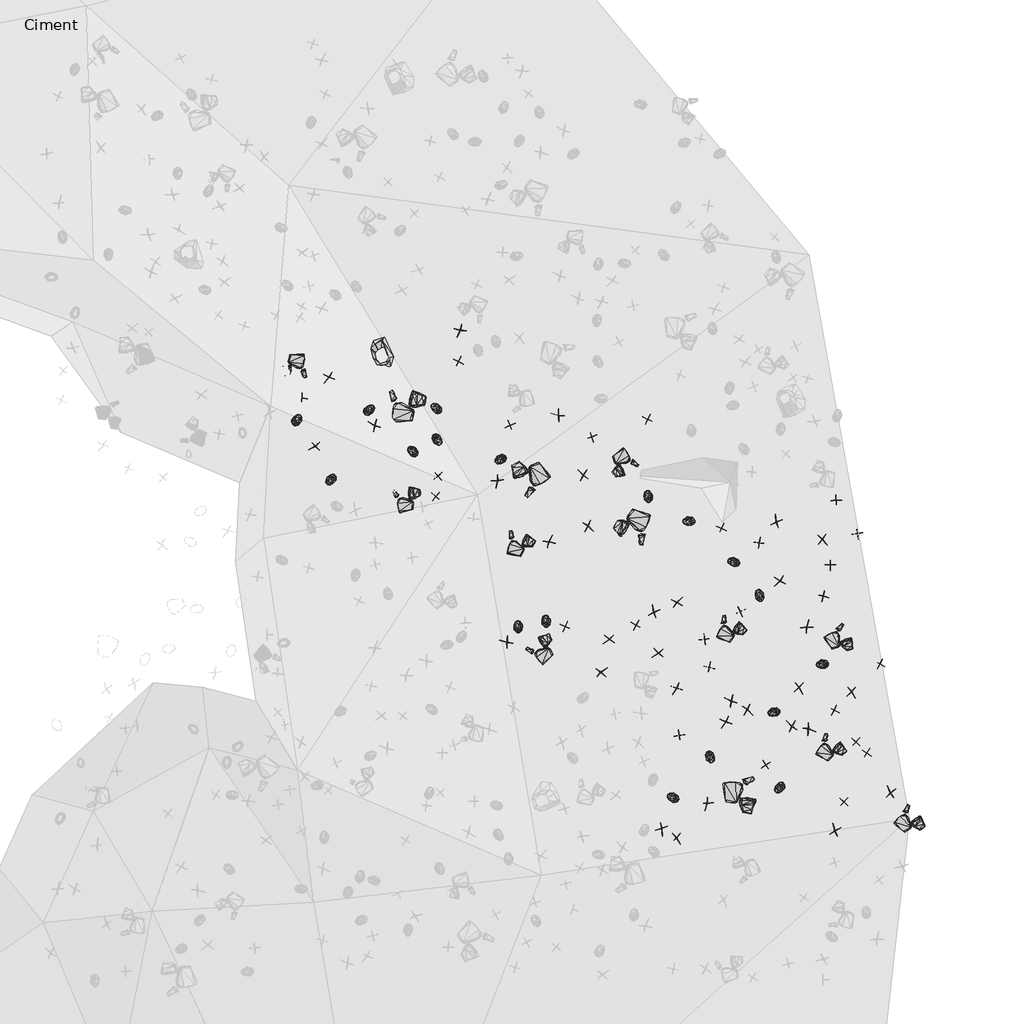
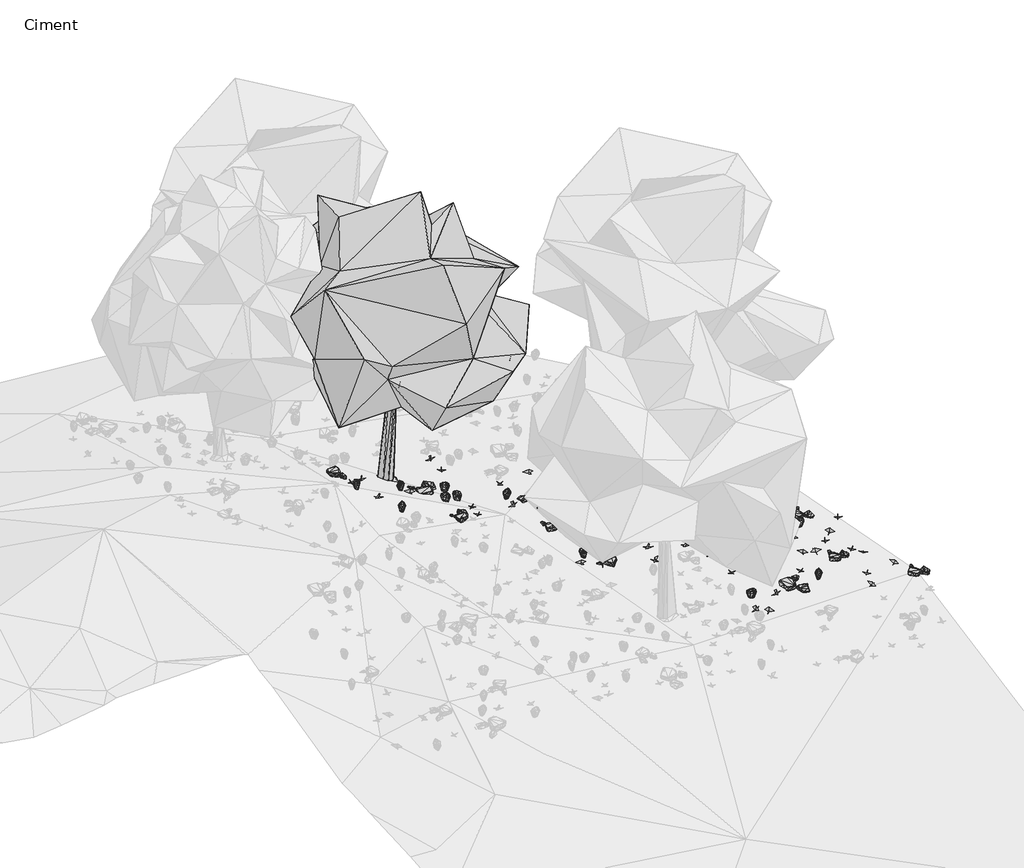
# One storey, part 27 of 30: 89 geographic elements.
"""IFC4 building model written with IfcOpenShell, lengths in millimetres."""

from ifc_helpers import new_model, si_unit, origin, place, context, project, spatial, transform, mapped, element, save
from components import enscape_assetdefinition_bush_025_fern_enscape_5718bf32, enscape_assetdefinition_bush_054_plant_09_version_2_enscape_7b546a12, enscape_assetdefinition_bush_062_plant_09_version_3_enscape_ccf8c8eb, enscape_assetdefinition_deciduous_tree_029_elm_enscape_e4c49baf, enscape_assetdefinition_stone_013_group_enscape_516da325, enscape_assetdefinition_stone_013_group_enscape_db9b3e91

model = new_model("IFC4")

# Units and contexts
model_context = context("Model", 3, world=origin())
ifc_project = project(units=[si_unit("LENGTHUNIT", "METRE", prefix="MILLI")], contexts=[model_context])

# Site, building, storey
site = spatial("IfcSite", under=ifc_project)
building = spatial("IfcBuilding", under=site)
storey = spatial("IfcBuildingStorey", under=building, Name="Ciment", Elevation=-1500.0)

# Geographic elements
placement = place(None, origin())
enscape_assetdefinition_bush_025_fern_enscape_shape = enscape_assetdefinition_bush_025_fern_enscape_5718bf32(model_context)
element("IfcGeographicElement", 1, ObjectType="Enscape AssetDefinition - Bush 025 Fern : Enscape AssetDefinition - Bush 025 Fern", at=placement, inside=storey, context=model_context, shape_type="MappedRepresentation", body=[
    mapped(enscape_assetdefinition_bush_025_fern_enscape_shape, transform((24721.7884064, 7518.7363625, -2551.7091751), x_axis=(-0.9869291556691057, -0.1611547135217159, 0.0), y_axis=(0.1611547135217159, -0.9869291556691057, 0.0), z_axis=(0.0, 0.0, 1.0))),
])
element("IfcGeographicElement", 2, ObjectType="Enscape AssetDefinition - Bush 025 Fern : Enscape AssetDefinition - Bush 025 Fern", at=placement, inside=storey, context=model_context, shape_type="MappedRepresentation", body=[
    mapped(enscape_assetdefinition_bush_025_fern_enscape_shape, transform((26297.9412079, 5881.4454079, -2706.6836357), x_axis=(-0.3454844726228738, 0.938424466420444, 0.0), y_axis=(-0.938424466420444, -0.3454844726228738, 0.0), z_axis=(0.0, 0.0, 1.0))),
])
element("IfcGeographicElement", 3, ObjectType="Enscape AssetDefinition - Bush 025 Fern : Enscape AssetDefinition - Bush 025 Fern", at=placement, inside=storey, context=model_context, shape_type="MappedRepresentation", body=[
    mapped(enscape_assetdefinition_bush_025_fern_enscape_shape, transform((26608.3316803, 3283.7791443, -2688.377142), x_axis=(-0.9449371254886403, -0.32725193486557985, 0.0), y_axis=(0.32725193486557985, -0.9449371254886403, 0.0), z_axis=(0.0, 0.0, 1.0))),
])
element("IfcGeographicElement", 4, ObjectType="Enscape AssetDefinition - Bush 025 Fern : Enscape AssetDefinition - Bush 025 Fern", at=placement, inside=storey, context=model_context, shape_type="MappedRepresentation", body=[
    mapped(enscape_assetdefinition_bush_025_fern_enscape_shape, transform((27682.0087433, 4350.3265381, -2840.7680988), x_axis=(-0.9698715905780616, -0.24361670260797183, 0.0), y_axis=(0.24361670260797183, -0.9698715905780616, 0.0), z_axis=(0.0, 0.0, 1.0))),
])
element("IfcGeographicElement", 5, ObjectType="Enscape AssetDefinition - Bush 025 Fern : Enscape AssetDefinition - Bush 025 Fern", at=placement, inside=storey, context=model_context, shape_type="MappedRepresentation", body=[
    mapped(enscape_assetdefinition_bush_025_fern_enscape_shape, transform((20949.7375488, 5182.4264526, -2049.762249), x_axis=(-0.2035758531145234, 0.9790591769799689, 0.0), y_axis=(-0.9790591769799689, -0.2035758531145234, 0.0), z_axis=(0.0, 0.0, 1.0))),
])
element("IfcGeographicElement", 6, ObjectType="Enscape AssetDefinition - Bush 025 Fern : Enscape AssetDefinition - Bush 025 Fern", at=placement, inside=storey, context=model_context, shape_type="MappedRepresentation", body=[
    mapped(enscape_assetdefinition_bush_025_fern_enscape_shape, transform((25714.2353058, 6616.4169312, -2652.050972), x_axis=(-0.9763938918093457, 0.21599761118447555, 0.0), y_axis=(-0.21599761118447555, -0.9763938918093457, 0.0), z_axis=(0.0, 0.0, 1.0))),
])
element("IfcGeographicElement", 7, ObjectType="Enscape AssetDefinition - Bush 025 Fern : Enscape AssetDefinition - Bush 025 Fern", at=placement, inside=storey, context=model_context, shape_type="MappedRepresentation", body=[
    mapped(enscape_assetdefinition_bush_025_fern_enscape_shape, transform((23831.3274384, 8071.7744827, -2456.1722279), x_axis=(-0.30267204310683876, 0.9530947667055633, 0.0), y_axis=(-0.9530947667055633, -0.30267204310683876, 0.0), z_axis=(0.0, 0.0, 1.0))),
])
element("IfcGeographicElement", 8, ObjectType="Enscape AssetDefinition - Bush 025 Fern : Enscape AssetDefinition - Bush 025 Fern", at=placement, inside=storey, context=model_context, shape_type="MappedRepresentation", body=[
    mapped(enscape_assetdefinition_bush_025_fern_enscape_shape, transform((18604.3300629, 9067.3351288, -1624.56429), x_axis=(-0.7754454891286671, 0.6314145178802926, 0.0), y_axis=(-0.6314145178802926, -0.7754454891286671, 0.0), z_axis=(0.0, 0.0, 1.0))),
])
element("IfcGeographicElement", 9, ObjectType="Enscape AssetDefinition - Bush 025 Fern : Enscape AssetDefinition - Bush 025 Fern", at=placement, inside=storey, context=model_context, shape_type="MappedRepresentation", body=[
    mapped(enscape_assetdefinition_bush_025_fern_enscape_shape, transform((26733.8523865, 1605.8006287, -2669.5923805), x_axis=(-0.539889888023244, -0.8417356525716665, 0.0), y_axis=(0.8417356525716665, -0.539889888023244, 0.0), z_axis=(0.0, 0.0, 1.0))),
])
element("IfcGeographicElement", 10, ObjectType="Enscape AssetDefinition - Bush 025 Fern : Enscape AssetDefinition - Bush 025 Fern", at=placement, inside=storey, context=model_context, shape_type="MappedRepresentation", body=[
    mapped(enscape_assetdefinition_bush_025_fern_enscape_shape, transform((16047.9125977, 9759.057045, -694.5656538), x_axis=(0.436817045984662, 0.8995503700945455, 0.0), y_axis=(-0.8995503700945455, 0.436817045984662, 0.0), z_axis=(0.0, 0.0, 1.0))),
])
element("IfcGeographicElement", 11, ObjectType="Enscape AssetDefinition - Bush 025 Fern : Enscape AssetDefinition - Bush 025 Fern", at=placement, inside=storey, context=model_context, shape_type="MappedRepresentation", body=[
    mapped(enscape_assetdefinition_bush_025_fern_enscape_shape, transform((25197.2579956, 2283.3175659, -2499.4652271), x_axis=(0.49130432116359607, -0.8709879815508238, 0.0), y_axis=(0.8709879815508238, 0.49130432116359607, 0.0), z_axis=(0.0, 0.0, 1.0))),
])
element("IfcGeographicElement", 12, ObjectType="Enscape AssetDefinition - Bush 025 Fern : Enscape AssetDefinition - Bush 025 Fern", at=placement, inside=storey, context=model_context, shape_type="MappedRepresentation", body=[
    mapped(enscape_assetdefinition_bush_025_fern_enscape_shape, transform((19147.8977203, 9315.0377274, -1932.0399761), x_axis=(0.6258652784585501, -0.7799311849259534, 0.0), y_axis=(0.7799311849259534, 0.6258652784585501, 0.0), z_axis=(0.0, 0.0, 1.0))),
])
element("IfcGeographicElement", 13, ObjectType="Enscape AssetDefinition - Bush 025 Fern : Enscape AssetDefinition - Bush 025 Fern", at=placement, inside=storey, context=model_context, shape_type="MappedRepresentation", body=[
    mapped(enscape_assetdefinition_bush_025_fern_enscape_shape, transform((20547.3136902, 8886.179924, -2092.8976536), x_axis=(-0.7966049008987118, -0.604500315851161, 0.0), y_axis=(0.604500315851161, -0.7966049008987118, 0.0), z_axis=(0.0, 0.0, 1.0))),
])
element("IfcGeographicElement", 14, ObjectType="Enscape AssetDefinition - Bush 025 Fern : Enscape AssetDefinition - Bush 025 Fern", at=placement, inside=storey, context=model_context, shape_type="MappedRepresentation", body=[
    mapped(enscape_assetdefinition_bush_025_fern_enscape_shape, transform((16787.5003815, 8430.724144, -953.0029297), x_axis=(-0.54338121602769, -0.8394860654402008, 0.0), y_axis=(0.8394860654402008, -0.54338121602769, 0.0), z_axis=(0.0, 0.0, 1.0))),
])
element("IfcGeographicElement", 15, ObjectType="Enscape AssetDefinition - Bush 025 Fern : Enscape AssetDefinition - Bush 025 Fern", at=placement, inside=storey, context=model_context, shape_type="MappedRepresentation", body=[
    mapped(enscape_assetdefinition_bush_025_fern_enscape_shape, transform((17649.8622894, 9983.1886292, -1449.5120049), x_axis=(0.629716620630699, 0.7768249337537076, 0.0), y_axis=(-0.7768249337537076, 0.629716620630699, 0.0), z_axis=(0.0, 0.0, 1.0))),
])
element("IfcGeographicElement", 16, ObjectType="Enscape AssetDefinition - Bush 025 Fern : Enscape AssetDefinition - Bush 025 Fern", at=placement, inside=storey, context=model_context, shape_type="MappedRepresentation", body=[
    mapped(enscape_assetdefinition_bush_025_fern_enscape_shape, transform((21568.0103302, 5304.9449921, -2126.1367798), x_axis=(-0.19299053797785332, 0.9812006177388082, 0.0), y_axis=(-0.9812006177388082, -0.19299053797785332, 0.0), z_axis=(0.0, 0.0, 1.0))),
])
element("IfcGeographicElement", 17, ObjectType="Enscape AssetDefinition - Bush 025 Fern : Enscape AssetDefinition - Bush 025 Fern", at=placement, inside=storey, context=model_context, shape_type="MappedRepresentation", body=[
    mapped(enscape_assetdefinition_bush_025_fern_enscape_shape, transform((24372.5280762, 1398.4870911, -2383.1262589), x_axis=(-0.9471826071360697, 0.32069472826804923, 0.0), y_axis=(-0.32069472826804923, -0.9471826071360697, 0.0), z_axis=(0.0, 0.0, 1.0))),
])
element("IfcGeographicElement", 18, ObjectType="Enscape AssetDefinition - Bush 025 Fern : Enscape AssetDefinition - Bush 025 Fern", at=placement, inside=storey, context=model_context, shape_type="MappedRepresentation", body=[
    mapped(enscape_assetdefinition_bush_025_fern_enscape_shape, transform((19128.6773682, 10021.0018158, -2024.361372), x_axis=(-0.8453133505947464, 0.5342708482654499, 0.0), y_axis=(-0.5342708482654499, -0.8453133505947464, 0.0), z_axis=(0.0, 0.0, 1.0))),
])
enscape_assetdefinition_bush_054_plant_09_version_2_enscape_shape = enscape_assetdefinition_bush_054_plant_09_version_2_enscape_7b546a12(model_context)
element("IfcGeographicElement", 19, ObjectType="Enscape AssetDefinition - Bush 054 Plant 09, Version 2 : Enscape AssetDefinition - Bush 054 Plant 09, Version 2", at=placement, inside=storey, context=model_context, shape_type="MappedRepresentation", body=[
    mapped(enscape_assetdefinition_bush_054_plant_09_version_2_enscape_shape, transform((27956.8538666, 3326.6124725, -2851.950407), x_axis=(-0.9191295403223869, 0.39395543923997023, 0.0), y_axis=(-0.39395543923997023, -0.9191295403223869, 0.0), z_axis=(0.0, 0.0, 1.0))),
])
element("IfcGeographicElement", 20, ObjectType="Enscape AssetDefinition - Bush 054 Plant 09, Version 2 : Enscape AssetDefinition - Bush 054 Plant 09, Version 2", at=placement, inside=storey, context=model_context, shape_type="MappedRepresentation", body=[
    mapped(enscape_assetdefinition_bush_054_plant_09_version_2_enscape_shape, transform((25177.2937775, 4278.2039642, -2537.1103287), x_axis=(-0.1775046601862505, -0.9841199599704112, 0.0), y_axis=(0.9841199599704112, -0.1775046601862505, 0.0), z_axis=(0.0, 0.0, 1.0))),
])
element("IfcGeographicElement", 21, ObjectType="Enscape AssetDefinition - Bush 054 Plant 09, Version 2 : Enscape AssetDefinition - Bush 054 Plant 09, Version 2", at=placement, inside=storey, context=model_context, shape_type="MappedRepresentation", body=[
    mapped(enscape_assetdefinition_bush_054_plant_09_version_2_enscape_shape, transform((28167.6750183, 1301.5441895, -2834.915638), x_axis=(-0.6339252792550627, -0.7733942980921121, 0.0), y_axis=(0.7733942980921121, -0.6339252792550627, 0.0), z_axis=(0.0, 0.0, 1.0))),
])
element("IfcGeographicElement", 22, ObjectType="Enscape AssetDefinition - Bush 054 Plant 09, Version 2 : Enscape AssetDefinition - Bush 054 Plant 09, Version 2", at=placement, inside=storey, context=model_context, shape_type="MappedRepresentation", body=[
    mapped(enscape_assetdefinition_bush_054_plant_09_version_2_enscape_shape, transform((24510.2825165, 2769.9642181, -2427.0882607), x_axis=(0.2017319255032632, -0.9794407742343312, 0.0), y_axis=(0.9794407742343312, 0.2017319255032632, 0.0), z_axis=(0.0, 0.0, 1.0))),
])
element("IfcGeographicElement", 23, ObjectType="Enscape AssetDefinition - Bush 054 Plant 09, Version 2 : Enscape AssetDefinition - Bush 054 Plant 09, Version 2", at=placement, inside=storey, context=model_context, shape_type="MappedRepresentation", body=[
    mapped(enscape_assetdefinition_bush_054_plant_09_version_2_enscape_shape, transform((16155.1189423, 10246.0985184, -858.9835167), x_axis=(-0.9998964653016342, 0.01438953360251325, 0.0), y_axis=(-0.01438953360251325, -0.9998964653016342, 0.0), z_axis=(0.0, 0.0, 1.0))),
])
element("IfcGeographicElement", 24, ObjectType="Enscape AssetDefinition - Bush 054 Plant 09, Version 2 : Enscape AssetDefinition - Bush 054 Plant 09, Version 2", at=placement, inside=storey, context=model_context, shape_type="MappedRepresentation", body=[
    mapped(enscape_assetdefinition_bush_054_plant_09_version_2_enscape_shape, transform((28434.1831207, 2631.8473816, -2894.6154118), x_axis=(-0.6378475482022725, -0.7701626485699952, 0.0), y_axis=(0.7701626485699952, -0.6378475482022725, 0.0), z_axis=(0.0, 0.0, 1.0))),
])
element("IfcGeographicElement", 25, ObjectType="Enscape AssetDefinition - Bush 054 Plant 09, Version 2 : Enscape AssetDefinition - Bush 054 Plant 09, Version 2", at=placement, inside=storey, context=model_context, shape_type="MappedRepresentation", body=[
    mapped(enscape_assetdefinition_bush_054_plant_09_version_2_enscape_shape, transform((25076.2405396, 4894.0863609, -2538.138628), x_axis=(0.9849442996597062, 0.17287199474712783, 0.0), y_axis=(-0.17287199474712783, 0.9849442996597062, 0.0), z_axis=(0.0, 0.0, 1.0))),
])
element("IfcGeographicElement", 26, ObjectType="Enscape AssetDefinition - Bush 054 Plant 09, Version 2 : Enscape AssetDefinition - Bush 054 Plant 09, Version 2", at=placement, inside=storey, context=model_context, shape_type="MappedRepresentation", body=[
    mapped(enscape_assetdefinition_bush_054_plant_09_version_2_enscape_shape, transform((20758.7490082, 9639.960289, -2156.2805176), x_axis=(0.41810404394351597, -0.9083991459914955, 0.0), y_axis=(0.9083991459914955, 0.41810404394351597, 0.0), z_axis=(0.0, 0.0, 1.0))),
])
element("IfcGeographicElement", 27, ObjectType="Enscape AssetDefinition - Bush 054 Plant 09, Version 2 : Enscape AssetDefinition - Bush 054 Plant 09, Version 2", at=placement, inside=storey, context=model_context, shape_type="MappedRepresentation", body=[
    mapped(enscape_assetdefinition_bush_054_plant_09_version_2_enscape_shape, transform((27716.5546417, 5858.1485748, -2877.2919178), x_axis=(-0.9834657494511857, 0.1810942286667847, 0.0), y_axis=(-0.1810942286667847, -0.9834657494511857, 0.0), z_axis=(0.0, 0.0, 1.0))),
])
element("IfcGeographicElement", 28, ObjectType="Enscape AssetDefinition - Bush 054 Plant 09, Version 2 : Enscape AssetDefinition - Bush 054 Plant 09, Version 2", at=placement, inside=storey, context=model_context, shape_type="MappedRepresentation", body=[
    mapped(enscape_assetdefinition_bush_054_plant_09_version_2_enscape_shape, transform((26429.4376373, 2113.9297485, -2643.383503), x_axis=(0.5920470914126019, -0.8059033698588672, 0.0), y_axis=(0.8059033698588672, 0.5920470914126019, 0.0), z_axis=(0.0, 0.0, 1.0))),
])
element("IfcGeographicElement", 29, ObjectType="Enscape AssetDefinition - Bush 054 Plant 09, Version 2 : Enscape AssetDefinition - Bush 054 Plant 09, Version 2", at=placement, inside=storey, context=model_context, shape_type="MappedRepresentation", body=[
    mapped(enscape_assetdefinition_bush_054_plant_09_version_2_enscape_shape, transform((21983.6902618, 5178.0319214, -2173.2900143), x_axis=(0.9311833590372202, -0.3645511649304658, 0.0), y_axis=(0.3645511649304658, 0.9311833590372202, 0.0), z_axis=(0.0, 0.0, 1.0))),
])
element("IfcGeographicElement", 30, ObjectType="Enscape AssetDefinition - Bush 054 Plant 09, Version 2 : Enscape AssetDefinition - Bush 054 Plant 09, Version 2", at=placement, inside=storey, context=model_context, shape_type="MappedRepresentation", body=[
    mapped(enscape_assetdefinition_bush_054_plant_09_version_2_enscape_shape, transform((19176.6719818, 8516.6101456, -1729.1173935), x_axis=(-0.6809405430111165, 0.73233870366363, 0.0), y_axis=(-0.73233870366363, -0.6809405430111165, 0.0), z_axis=(0.0, 0.0, 1.0))),
])
element("IfcGeographicElement", 31, ObjectType="Enscape AssetDefinition - Bush 054 Plant 09, Version 2 : Enscape AssetDefinition - Bush 054 Plant 09, Version 2", at=placement, inside=storey, context=model_context, shape_type="MappedRepresentation", body=[
    mapped(enscape_assetdefinition_bush_054_plant_09_version_2_enscape_shape, transform((25871.0784912, 5516.4756775, -2647.3655701), x_axis=(-0.8966216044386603, -0.44279758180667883, 0.0), y_axis=(0.44279758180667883, -0.8966216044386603, 0.0), z_axis=(0.0, 0.0, 1.0))),
])
element("IfcGeographicElement", 32, ObjectType="Enscape AssetDefinition - Bush 054 Plant 09, Version 2 : Enscape AssetDefinition - Bush 054 Plant 09, Version 2", at=placement, inside=storey, context=model_context, shape_type="MappedRepresentation", body=[
    mapped(enscape_assetdefinition_bush_054_plant_09_version_2_enscape_shape, transform((26285.3183746, 7031.460762, -2729.8395634), x_axis=(0.996489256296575, -0.08372073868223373, 0.0), y_axis=(0.08372073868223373, 0.996489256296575, 0.0), z_axis=(0.0, 0.0, 1.0))),
])
element("IfcGeographicElement", 33, ObjectType="Enscape AssetDefinition - Bush 054 Plant 09, Version 2 : Enscape AssetDefinition - Bush 054 Plant 09, Version 2", at=placement, inside=storey, context=model_context, shape_type="MappedRepresentation", body=[
    mapped(enscape_assetdefinition_bush_054_plant_09_version_2_enscape_shape, transform((28671.8845367, 2381.9160461, -2917.9224968), x_axis=(-0.5015189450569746, -0.865146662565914, 0.0), y_axis=(0.865146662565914, -0.5015189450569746, 0.0), z_axis=(0.0, 0.0, 1.0))),
])
element("IfcGeographicElement", 34, ObjectType="Enscape AssetDefinition - Bush 054 Plant 09, Version 2 : Enscape AssetDefinition - Bush 054 Plant 09, Version 2", at=placement, inside=storey, context=model_context, shape_type="MappedRepresentation", body=[
    mapped(enscape_assetdefinition_bush_054_plant_09_version_2_enscape_shape, transform((28971.654892, 4352.5791168, -2996.3693619), x_axis=(-0.8990756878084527, 0.43779322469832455, 0.0), y_axis=(-0.43779322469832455, -0.8990756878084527, 0.0), z_axis=(0.0, 0.0, 1.0))),
])
element("IfcGeographicElement", 35, ObjectType="Enscape AssetDefinition - Bush 054 Plant 09, Version 2 : Enscape AssetDefinition - Bush 054 Plant 09, Version 2", at=placement, inside=storey, context=model_context, shape_type="MappedRepresentation", body=[
    mapped(enscape_assetdefinition_bush_054_plant_09_version_2_enscape_shape, transform((25448.7781525, 7359.0679169, -2635.969162), x_axis=(-0.3427542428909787, -0.9394251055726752, 0.0), y_axis=(0.9394251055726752, -0.3427542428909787, 0.0), z_axis=(0.0, 0.0, 1.0))),
])
element("IfcGeographicElement", 36, ObjectType="Enscape AssetDefinition - Bush 054 Plant 09, Version 2 : Enscape AssetDefinition - Bush 054 Plant 09, Version 2", at=placement, inside=storey, context=model_context, shape_type="MappedRepresentation", body=[
    mapped(enscape_assetdefinition_bush_054_plant_09_version_2_enscape_shape, transform((19114.7899628, 8061.6598129, -1703.2152414), x_axis=(0.7862115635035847, -0.617957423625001, 0.0), y_axis=(0.617957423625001, 0.7862115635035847, 0.0), z_axis=(0.0, 0.0, 1.0))),
])
element("IfcGeographicElement", 37, ObjectType="Enscape AssetDefinition - Bush 054 Plant 09, Version 2 : Enscape AssetDefinition - Bush 054 Plant 09, Version 2", at=placement, inside=storey, context=model_context, shape_type="MappedRepresentation", body=[
    mapped(enscape_assetdefinition_bush_054_plant_09_version_2_enscape_shape, transform((27988.3861542, 7984.0703011, -2955.7003975), x_axis=(0.11199635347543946, -0.993708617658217, 0.0), y_axis=(0.993708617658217, 0.11199635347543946, 0.0), z_axis=(0.0, 0.0, 1.0))),
])
element("IfcGeographicElement", 38, ObjectType="Enscape AssetDefinition - Bush 054 Plant 09, Version 2 : Enscape AssetDefinition - Bush 054 Plant 09, Version 2", at=placement, inside=storey, context=model_context, shape_type="MappedRepresentation", body=[
    mapped(enscape_assetdefinition_bush_054_plant_09_version_2_enscape_shape, transform((22581.079483, 9381.2837601, -2333.4732056), x_axis=(-0.37380221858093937, 0.9275084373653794, 0.0), y_axis=(-0.9275084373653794, -0.37380221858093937, 0.0), z_axis=(0.0, 0.0, 1.0))),
])
element("IfcGeographicElement", 39, ObjectType="Enscape AssetDefinition - Bush 054 Plant 09, Version 2 : Enscape AssetDefinition - Bush 054 Plant 09, Version 2", at=placement, inside=storey, context=model_context, shape_type="MappedRepresentation", body=[
    mapped(enscape_assetdefinition_bush_054_plant_09_version_2_enscape_shape, transform((23553.4076691, 5210.4530334, -2361.6085052), x_axis=(0.9117138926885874, -0.4108257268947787, 0.0), y_axis=(0.4108257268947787, 0.9117138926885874, 0.0), z_axis=(0.0, 0.0, 1.0))),
])
element("IfcGeographicElement", 40, ObjectType="Enscape AssetDefinition - Bush 054 Plant 09, Version 2 : Enscape AssetDefinition - Bush 054 Plant 09, Version 2", at=placement, inside=storey, context=model_context, shape_type="MappedRepresentation", body=[
    mapped(enscape_assetdefinition_bush_054_plant_09_version_2_enscape_shape, transform((28469.9287415, 7238.6169434, -2997.7853298), x_axis=(-0.2032822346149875, 0.9791201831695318, 0.0), y_axis=(-0.9791201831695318, -0.2032822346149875, 0.0), z_axis=(0.0, 0.0, 1.0))),
])
element("IfcGeographicElement", 41, ObjectType="Enscape AssetDefinition - Bush 054 Plant 09, Version 2 : Enscape AssetDefinition - Bush 054 Plant 09, Version 2", at=placement, inside=storey, context=model_context, shape_type="MappedRepresentation", body=[
    mapped(enscape_assetdefinition_bush_054_plant_09_version_2_enscape_shape, transform((27870.6874847, 6544.9223518, -2910.6202126), x_axis=(-0.08128487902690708, 0.9966909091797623, 0.0), y_axis=(-0.9966909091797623, -0.08128487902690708, 0.0), z_axis=(0.0, 0.0, 1.0))),
])
element("IfcGeographicElement", 42, ObjectType="Enscape AssetDefinition - Bush 054 Plant 09, Version 2 : Enscape AssetDefinition - Bush 054 Plant 09, Version 2", at=placement, inside=storey, context=model_context, shape_type="MappedRepresentation", body=[
    mapped(enscape_assetdefinition_bush_054_plant_09_version_2_enscape_shape, transform((23814.1880035, 9771.8391418, -2490.5874729), x_axis=(0.9280751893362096, -0.3723928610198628, 0.0), y_axis=(0.3723928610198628, 0.9280751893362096, 0.0), z_axis=(0.0, 0.0, 1.0))),
])
element("IfcGeographicElement", 43, ObjectType="Enscape AssetDefinition - Bush 054 Plant 09, Version 2 : Enscape AssetDefinition - Bush 054 Plant 09, Version 2", at=placement, inside=storey, context=model_context, shape_type="MappedRepresentation", body=[
    mapped(enscape_assetdefinition_bush_054_plant_09_version_2_enscape_shape, transform((19617.8226471, 11058.3715439, -2130.2959919), x_axis=(-0.39027332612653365, -0.9206990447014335, 0.0), y_axis=(0.9206990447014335, -0.39027332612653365, 0.0), z_axis=(0.0, 0.0, 1.0))),
])
enscape_assetdefinition_bush_062_plant_09_version_3_enscape_shape = enscape_assetdefinition_bush_062_plant_09_version_3_enscape_ccf8c8eb(model_context)
element("IfcGeographicElement", 44, ObjectType="Enscape AssetDefinition - Bush 062 Plant 09, Version 3 : Enscape AssetDefinition - Bush 062 Plant 09, Version 3", at=placement, inside=storey, context=model_context, shape_type="MappedRepresentation", body=[
    mapped(enscape_assetdefinition_bush_062_plant_09_version_3_enscape_shape, transform((27963.6707306, 667.8962708, -2797.8239059), x_axis=(0.7918010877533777, 0.6107790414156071, 0.0), y_axis=(-0.6107790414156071, 0.7918010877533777, 0.0), z_axis=(0.0, 0.0, 1.0))),
])
element("IfcGeographicElement", 45, ObjectType="Enscape AssetDefinition - Bush 062 Plant 09, Version 3 : Enscape AssetDefinition - Bush 062 Plant 09, Version 3", at=placement, inside=storey, context=model_context, shape_type="MappedRepresentation", body=[
    mapped(enscape_assetdefinition_bush_062_plant_09_version_3_enscape_shape, transform((21630.563736, 7066.7152405, -2169.1560745), x_axis=(0.9981370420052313, -0.0610118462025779, 0.0), y_axis=(0.0610118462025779, 0.9981370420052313, 0.0), z_axis=(0.0, 0.0, 1.0))),
])
element("IfcGeographicElement", 46, ObjectType="Enscape AssetDefinition - Bush 062 Plant 09, Version 3 : Enscape AssetDefinition - Bush 062 Plant 09, Version 3", at=placement, inside=storey, context=model_context, shape_type="MappedRepresentation", body=[
    mapped(enscape_assetdefinition_bush_062_plant_09_version_3_enscape_shape, transform((20487.5431061, 8399.7440338, -2059.8943233), x_axis=(-0.9821515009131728, -0.18809154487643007, 0.0), y_axis=(0.18809154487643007, -0.9821515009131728, 0.0), z_axis=(0.0, 0.0, 1.0))),
])
element("IfcGeographicElement", 47, ObjectType="Enscape AssetDefinition - Bush 062 Plant 09, Version 3 : Enscape AssetDefinition - Bush 062 Plant 09, Version 3", at=placement, inside=storey, context=model_context, shape_type="MappedRepresentation", body=[
    mapped(enscape_assetdefinition_bush_062_plant_09_version_3_enscape_shape, transform((20683.5460663, 4833.4846497, -2010.9438896), x_axis=(-0.09448873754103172, 0.9955259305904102, 0.0), y_axis=(-0.9955259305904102, -0.09448873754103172, 0.0), z_axis=(0.0, 0.0, 1.0))),
])
element("IfcGeographicElement", 48, ObjectType="Enscape AssetDefinition - Bush 062 Plant 09, Version 3 : Enscape AssetDefinition - Bush 062 Plant 09, Version 3", at=placement, inside=storey, context=model_context, shape_type="MappedRepresentation", body=[
    mapped(enscape_assetdefinition_bush_062_plant_09_version_3_enscape_shape, transform((27396.0380554, 2907.3886871, -2775.3105164), x_axis=(0.058162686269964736, -0.9983071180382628, 0.0), y_axis=(0.9983071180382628, 0.058162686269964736, 0.0), z_axis=(0.0, 0.0, 1.0))),
])
element("IfcGeographicElement", 49, ObjectType="Enscape AssetDefinition - Bush 062 Plant 09, Version 3 : Enscape AssetDefinition - Bush 062 Plant 09, Version 3", at=placement, inside=storey, context=model_context, shape_type="MappedRepresentation", body=[
    mapped(enscape_assetdefinition_bush_062_plant_09_version_3_enscape_shape, transform((24453.9585114, 3804.3210506, -2441.088438), x_axis=(-0.9859058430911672, 0.1673011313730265, 0.0), y_axis=(-0.1673011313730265, -0.9859058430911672, 0.0), z_axis=(0.0, 0.0, 1.0))),
])
element("IfcGeographicElement", 50, ObjectType="Enscape AssetDefinition - Bush 062 Plant 09, Version 3 : Enscape AssetDefinition - Bush 062 Plant 09, Version 3", at=placement, inside=storey, context=model_context, shape_type="MappedRepresentation", body=[
    mapped(enscape_assetdefinition_bush_062_plant_09_version_3_enscape_shape, transform((24042.8714752, 4585.0615501, -2407.5903893), x_axis=(-0.8066523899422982, 0.591026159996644, 0.0), y_axis=(-0.591026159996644, -0.8066523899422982, 0.0), z_axis=(0.0, 0.0, 1.0))),
])
element("IfcGeographicElement", 51, ObjectType="Enscape AssetDefinition - Bush 062 Plant 09, Version 3 : Enscape AssetDefinition - Bush 062 Plant 09, Version 3", at=placement, inside=storey, context=model_context, shape_type="MappedRepresentation", body=[
    mapped(enscape_assetdefinition_bush_062_plant_09_version_3_enscape_shape, transform((25545.3624725, 3058.2787991, -2556.6167831), x_axis=(-0.9750009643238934, 0.22220062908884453, 0.0), y_axis=(-0.22220062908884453, -0.9750009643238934, 0.0), z_axis=(0.0, 0.0, 1.0))),
])
element("IfcGeographicElement", 52, ObjectType="Enscape AssetDefinition - Bush 062 Plant 09, Version 3 : Enscape AssetDefinition - Bush 062 Plant 09, Version 3", at=placement, inside=storey, context=model_context, shape_type="MappedRepresentation", body=[
    mapped(enscape_assetdefinition_bush_062_plant_09_version_3_enscape_shape, transform((17755.3844452, 9640.7346725, -1403.7154913), x_axis=(0.12489456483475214, 0.9921700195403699, 0.0), y_axis=(-0.9921700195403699, 0.12489456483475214, 0.0), z_axis=(0.0, 0.0, 1.0))),
])
element("IfcGeographicElement", 53, ObjectType="Enscape AssetDefinition - Bush 062 Plant 09, Version 3 : Enscape AssetDefinition - Bush 062 Plant 09, Version 3", at=placement, inside=storey, context=model_context, shape_type="MappedRepresentation", body=[
    mapped(enscape_assetdefinition_bush_062_plant_09_version_3_enscape_shape, transform((19656.5303802, 11735.6595993, -2172.9671955), x_axis=(-0.9988171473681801, 0.04862413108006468, 0.0), y_axis=(-0.04862413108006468, -0.9988171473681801, 0.0), z_axis=(0.0, 0.0, 1.0))),
])
element("IfcGeographicElement", 54, ObjectType="Enscape AssetDefinition - Bush 062 Plant 09, Version 3 : Enscape AssetDefinition - Bush 062 Plant 09, Version 3", at=placement, inside=storey, context=model_context, shape_type="MappedRepresentation", body=[
    mapped(enscape_assetdefinition_bush_062_plant_09_version_3_enscape_shape, transform((26742.565155, 6183.5575104, -2766.7956352), x_axis=(-0.9199999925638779, 0.3919183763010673, 0.0), y_axis=(-0.3919183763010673, -0.9199999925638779, 0.0), z_axis=(0.0, 0.0, 1.0))),
])
element("IfcGeographicElement", 55, ObjectType="Enscape AssetDefinition - Bush 062 Plant 09, Version 3 : Enscape AssetDefinition - Bush 062 Plant 09, Version 3", at=placement, inside=storey, context=model_context, shape_type="MappedRepresentation", body=[
    mapped(enscape_assetdefinition_bush_062_plant_09_version_3_enscape_shape, transform((22379.2896271, 8542.6311493, -2291.1365032), x_axis=(0.413739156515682, 0.9103954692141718, 0.0), y_axis=(-0.9103954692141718, 0.413739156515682, 0.0), z_axis=(0.0, 0.0, 1.0))),
])
element("IfcGeographicElement", 56, ObjectType="Enscape AssetDefinition - Bush 062 Plant 09, Version 3 : Enscape AssetDefinition - Bush 062 Plant 09, Version 3", at=placement, inside=storey, context=model_context, shape_type="MappedRepresentation", body=[
    mapped(enscape_assetdefinition_bush_062_plant_09_version_3_enscape_shape, transform((24461.3056183, 488.4471893, -2375.4992485), x_axis=(-0.5862983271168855, -0.8100952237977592, 0.0), y_axis=(0.8100952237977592, -0.5862983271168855, 0.0), z_axis=(0.0, 0.0, 1.0))),
])
element("IfcGeographicElement", 57, ObjectType="Enscape AssetDefinition - Bush 062 Plant 09, Version 3 : Enscape AssetDefinition - Bush 062 Plant 09, Version 3", at=placement, inside=storey, context=model_context, shape_type="MappedRepresentation", body=[
    mapped(enscape_assetdefinition_bush_062_plant_09_version_3_enscape_shape, transform((22503.9291382, 7398.0417252, -2281.6081047), x_axis=(-0.3407296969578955, -0.9401613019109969, 0.0), y_axis=(0.9401613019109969, -0.3407296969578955, 0.0), z_axis=(0.0, 0.0, 1.0))),
])
element("IfcGeographicElement", 58, ObjectType="Enscape AssetDefinition - Bush 062 Plant 09, Version 3 : Enscape AssetDefinition - Bush 062 Plant 09, Version 3", at=placement, inside=storey, context=model_context, shape_type="MappedRepresentation", body=[
    mapped(enscape_assetdefinition_bush_062_plant_09_version_3_enscape_shape, transform((16744.3141937, 10694.4026947, -1240.8373356), x_axis=(-0.9533121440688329, 0.30198668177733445, 0.0), y_axis=(-0.30198668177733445, -0.9533121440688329, 0.0), z_axis=(0.0, 0.0, 1.0))),
])
element("IfcGeographicElement", 59, ObjectType="Enscape AssetDefinition - Bush 062 Plant 09, Version 3 : Enscape AssetDefinition - Bush 062 Plant 09, Version 3", at=placement, inside=storey, context=model_context, shape_type="MappedRepresentation", body=[
    mapped(enscape_assetdefinition_bush_062_plant_09_version_3_enscape_shape, transform((16436.504364, 9171.0290909, -828.5342455), x_axis=(-0.7854920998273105, 0.6188716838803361, 0.0), y_axis=(-0.6188716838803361, -0.7854920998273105, 0.0), z_axis=(0.0, 0.0, 1.0))),
])
element("IfcGeographicElement", 60, ObjectType="Enscape AssetDefinition - Bush 062 Plant 09, Version 3 : Enscape AssetDefinition - Bush 062 Plant 09, Version 3", at=placement, inside=storey, context=model_context, shape_type="MappedRepresentation", body=[
    mapped(enscape_assetdefinition_bush_062_plant_09_version_3_enscape_shape, transform((22957.1971893, 4887.6953125, -2283.8582993), x_axis=(-0.8578933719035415, 0.5138277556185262, 0.0), y_axis=(-0.5138277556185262, -0.8578933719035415, 0.0), z_axis=(0.0, 0.0, 1.0))),
])
element("IfcGeographicElement", 61, ObjectType="Enscape AssetDefinition - Bush 062 Plant 09, Version 3 : Enscape AssetDefinition - Bush 062 Plant 09, Version 3", at=placement, inside=storey, context=model_context, shape_type="MappedRepresentation", body=[
    mapped(enscape_assetdefinition_bush_062_plant_09_version_3_enscape_shape, transform((22789.9990082, 4175.4722595, -2249.5918274), x_axis=(0.8518619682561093, -0.5237663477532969, 0.0), y_axis=(0.5237663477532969, 0.8518619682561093, 0.0), z_axis=(0.0, 0.0, 1.0))),
])
element("IfcGeographicElement", 62, ObjectType="Enscape AssetDefinition - Bush 062 Plant 09, Version 3 : Enscape AssetDefinition - Bush 062 Plant 09, Version 3", at=placement, inside=storey, context=model_context, shape_type="MappedRepresentation", body=[
    mapped(enscape_assetdefinition_bush_062_plant_09_version_3_enscape_shape, transform((25658.0524445, 3532.3600769, -2579.5931816), x_axis=(0.06048714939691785, 0.9981689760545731, 0.0), y_axis=(-0.9981689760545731, 0.06048714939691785, 0.0), z_axis=(0.0, 0.0, 1.0))),
])
element("IfcGeographicElement", 63, ObjectType="Enscape AssetDefinition - Bush 062 Plant 09, Version 3 : Enscape AssetDefinition - Bush 062 Plant 09, Version 3", at=placement, inside=storey, context=model_context, shape_type="MappedRepresentation", body=[
    mapped(enscape_assetdefinition_bush_062_plant_09_version_3_enscape_shape, transform((27179.7103882, 3822.0918179, -2768.8474655), x_axis=(-0.6242870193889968, -0.7811950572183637, 0.0), y_axis=(0.7811950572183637, -0.6242870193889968, 0.0), z_axis=(0.0, 0.0, 1.0))),
])
element("IfcGeographicElement", 64, ObjectType="Enscape AssetDefinition - Bush 062 Plant 09, Version 3 : Enscape AssetDefinition - Bush 062 Plant 09, Version 3", at=placement, inside=storey, context=model_context, shape_type="MappedRepresentation", body=[
    mapped(enscape_assetdefinition_bush_062_plant_09_version_3_enscape_shape, transform((29193.9601898, 1503.6373138, -2962.0461464), x_axis=(0.6810467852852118, 0.7322399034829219, 0.0), y_axis=(-0.7322399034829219, 0.6810467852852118, 0.0), z_axis=(0.0, 0.0, 1.0))),
])
element("IfcGeographicElement", 65, ObjectType="Enscape AssetDefinition - Bush 062 Plant 09, Version 3 : Enscape AssetDefinition - Bush 062 Plant 09, Version 3", at=placement, inside=storey, context=model_context, shape_type="MappedRepresentation", body=[
    mapped(enscape_assetdefinition_bush_062_plant_09_version_3_enscape_shape, transform((27344.3851471, 5176.3801575, -2817.7719116), x_axis=(0.9917252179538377, 0.12837870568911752, 0.0), y_axis=(-0.12837870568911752, 0.9917252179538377, 0.0), z_axis=(0.0, 0.0, 1.0))),
])
element("IfcGeographicElement", 66, ObjectType="Enscape AssetDefinition - Bush 062 Plant 09, Version 3 : Enscape AssetDefinition - Bush 062 Plant 09, Version 3", at=placement, inside=storey, context=model_context, shape_type="MappedRepresentation", body=[
    mapped(enscape_assetdefinition_bush_062_plant_09_version_3_enscape_shape, transform((24133.1119537, 696.264267, -2340.4276371), x_axis=(-0.9029098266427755, -0.4298300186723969, 0.0), y_axis=(0.4298300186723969, -0.9029098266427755, 0.0), z_axis=(0.0, 0.0, 1.0))),
])
element("IfcGeographicElement", 67, ObjectType="Enscape AssetDefinition - Bush 062 Plant 09, Version 3 : Enscape AssetDefinition - Bush 062 Plant 09, Version 3", at=placement, inside=storey, context=model_context, shape_type="MappedRepresentation", body=[
    mapped(enscape_assetdefinition_bush_062_plant_09_version_3_enscape_shape, transform((24475.3932953, 5727.2319794, -2483.5448265), x_axis=(0.916685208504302, -0.3996100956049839, 0.0), y_axis=(0.3996100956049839, 0.916685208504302, 0.0), z_axis=(0.0, 0.0, 1.0))),
])
element("IfcGeographicElement", 68, ObjectType="Enscape AssetDefinition - Bush 062 Plant 09, Version 3 : Enscape AssetDefinition - Bush 062 Plant 09, Version 3", at=placement, inside=storey, context=model_context, shape_type="MappedRepresentation", body=[
    mapped(enscape_assetdefinition_bush_062_plant_09_version_3_enscape_shape, transform((26665.8992767, 7507.1406364, -2785.9518528), x_axis=(0.8668180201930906, 0.4986246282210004, 0.0), y_axis=(-0.4986246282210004, 0.8668180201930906, 0.0), z_axis=(0.0, 0.0, 1.0))),
])
element("IfcGeographicElement", 69, ObjectType="Enscape AssetDefinition - Bush 062 Plant 09, Version 3 : Enscape AssetDefinition - Bush 062 Plant 09, Version 3", at=placement, inside=storey, context=model_context, shape_type="MappedRepresentation", body=[
    mapped(enscape_assetdefinition_bush_062_plant_09_version_3_enscape_shape, transform((28345.3884125, 3726.8505096, -2907.4032307), x_axis=(-0.5990872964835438, -0.8006837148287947, 0.0), y_axis=(0.8006837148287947, -0.5990872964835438, 0.0), z_axis=(0.0, 0.0, 1.0))),
])
element("IfcGeographicElement", 70, ObjectType="Enscape AssetDefinition - Bush 062 Plant 09, Version 3 : Enscape AssetDefinition - Bush 062 Plant 09, Version 3", at=placement, inside=storey, context=model_context, shape_type="MappedRepresentation", body=[
    mapped(enscape_assetdefinition_bush_062_plant_09_version_3_enscape_shape, transform((26036.699295, 3333.0461979, -2620.8672523), x_axis=(-0.3797586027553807, -0.9250856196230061, 0.0), y_axis=(0.9250856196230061, -0.3797586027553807, 0.0), z_axis=(0.0, 0.0, 1.0))),
])
element("IfcGeographicElement", 71, ObjectType="Enscape AssetDefinition - Bush 062 Plant 09, Version 3 : Enscape AssetDefinition - Bush 062 Plant 09, Version 3", at=placement, inside=storey, context=model_context, shape_type="MappedRepresentation", body=[
    mapped(enscape_assetdefinition_bush_062_plant_09_version_3_enscape_shape, transform((23948.2650757, 5511.7664337, -2415.3413773), x_axis=(0.8517708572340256, 0.5239145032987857, 0.0), y_axis=(-0.5239145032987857, 0.8517708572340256, 0.0), z_axis=(0.0, 0.0, 1.0))),
])
element("IfcGeographicElement", 72, ObjectType="Enscape AssetDefinition - Bush 062 Plant 09, Version 3 : Enscape AssetDefinition - Bush 062 Plant 09, Version 3", at=placement, inside=storey, context=model_context, shape_type="MappedRepresentation", body=[
    mapped(enscape_assetdefinition_bush_062_plant_09_version_3_enscape_shape, transform((27700.5138397, 7104.4845581, -2902.1029472), x_axis=(-0.49133742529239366, -0.8709693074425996, 0.0), y_axis=(0.8709693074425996, -0.49133742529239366, 0.0), z_axis=(0.0, 0.0, 1.0))),
])
element("IfcGeographicElement", 73, ObjectType="Enscape AssetDefinition - Bush 062 Plant 09, Version 3 : Enscape AssetDefinition - Bush 062 Plant 09, Version 3", at=placement, inside=storey, context=model_context, shape_type="MappedRepresentation", body=[
    mapped(enscape_assetdefinition_bush_062_plant_09_version_3_enscape_shape, transform((27001.7299652, 2981.3041687, -2729.3367386), x_axis=(0.3767061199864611, 0.9263328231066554, 0.0), y_axis=(-0.9263328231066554, 0.3767061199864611, 0.0), z_axis=(0.0, 0.0, 1.0))),
])
element("IfcGeographicElement", 74, ObjectType="Enscape AssetDefinition - Bush 062 Plant 09, Version 3 : Enscape AssetDefinition - Bush 062 Plant 09, Version 3", at=placement, inside=storey, context=model_context, shape_type="MappedRepresentation", body=[
    mapped(enscape_assetdefinition_bush_062_plant_09_version_3_enscape_shape, transform((21823.3165741, 9859.4532013, -2269.4158554), x_axis=(-0.1374471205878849, 0.9905091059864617, 0.0), y_axis=(-0.9905091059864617, -0.1374471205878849, 0.0), z_axis=(0.0, 0.0, 1.0))),
])
element("IfcGeographicElement", 75, ObjectType="Enscape AssetDefinition - Bush 062 Plant 09, Version 3 : Enscape AssetDefinition - Bush 062 Plant 09, Version 3", at=placement, inside=storey, context=model_context, shape_type="MappedRepresentation", body=[
    mapped(enscape_assetdefinition_bush_062_plant_09_version_3_enscape_shape, transform((25132.2689056, 1255.3253174, -2471.0884094), x_axis=(-0.9910341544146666, -0.13360877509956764, 0.0), y_axis=(0.13360877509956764, -0.9910341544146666, 0.0), z_axis=(0.0, 0.0, 1.0))),
])
enscape_assetdefinition_deciduous_tree_029_elm_enscape_shape = enscape_assetdefinition_deciduous_tree_029_elm_enscape_e4c49baf(model_context)
element("IfcGeographicElement", 76, ObjectType="Enscape AssetDefinition - Deciduous Tree 029 Elm : Enscape AssetDefinition - Deciduous Tree 029 Elm", at=placement, inside=storey, context=model_context, shape_type="MappedRepresentation", body=[
    mapped(enscape_assetdefinition_deciduous_tree_029_elm_enscape_shape, transform((17895.4277039, 11237.3609543, -1896.9516754), x_axis=(-1.0, 0.0, 0.0), y_axis=(0.0, -1.0, 0.0), z_axis=(0.0, 0.0, 1.0))),
])
enscape_assetdefinition_stone_013_group_enscape_shape = enscape_assetdefinition_stone_013_group_enscape_516da325(model_context)
element("IfcGeographicElement", 77, ObjectType="Enscape AssetDefinition - Stone 013 Group : Enscape AssetDefinition - Stone 013 Group", at=placement, inside=storey, context=model_context, shape_type="MappedRepresentation", body=[
    mapped(enscape_assetdefinition_stone_013_group_enscape_shape, transform((21203.5427094, 8458.8823318, -2147.5253105), x_axis=(0.5402622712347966, -0.8414966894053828, 0.0), y_axis=(0.8414966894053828, 0.5402622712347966, 0.0), z_axis=(0.0, 0.0, 1.0))),
])
element("IfcGeographicElement", 78, ObjectType="Enscape AssetDefinition - Stone 013 Group : Enscape AssetDefinition - Stone 013 Group", at=placement, inside=storey, context=model_context, shape_type="MappedRepresentation", body=[
    mapped(enscape_assetdefinition_stone_013_group_enscape_shape, transform((18408.3023071, 10114.0975952, -1820.5411434), x_axis=(-0.9991564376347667, 0.04106596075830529, 0.0), y_axis=(-0.04106596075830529, -0.9991564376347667, 0.0), z_axis=(0.0, 0.0, 1.0))),
])
element("IfcGeographicElement", 79, ObjectType="Enscape AssetDefinition - Stone 013 Group : Enscape AssetDefinition - Stone 013 Group", at=placement, inside=storey, context=model_context, shape_type="MappedRepresentation", body=[
    mapped(enscape_assetdefinition_stone_013_group_enscape_shape, transform((25904.6878815, 1512.1859312, -2568.5844421), x_axis=(-0.05558967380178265, 0.9984536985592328, 0.0), y_axis=(-0.9984536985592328, -0.05558967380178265, 0.0), z_axis=(0.0, 0.0, 1.0))),
])
element("IfcGeographicElement", 80, ObjectType="Enscape AssetDefinition - Stone 013 Group : Enscape AssetDefinition - Stone 013 Group", at=placement, inside=storey, context=model_context, shape_type="MappedRepresentation", body=[
    mapped(enscape_assetdefinition_stone_013_group_enscape_shape, transform((23516.3211823, 7366.2261963, -2403.0365944), x_axis=(0.9169736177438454, -0.3989478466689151, 0.0), y_axis=(0.3989478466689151, 0.9169736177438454, 0.0), z_axis=(0.0, 0.0, 1.0))),
])
enscape_assetdefinition_stone_013_group_enscape_2_shape = enscape_assetdefinition_stone_013_group_enscape_db9b3e91(model_context)
element("IfcGeographicElement", 81, ObjectType="Enscape AssetDefinition - Stone 013 Group : Enscape AssetDefinition - Stone 013 Group 2", at=placement, inside=storey, context=model_context, shape_type="MappedRepresentation", body=[
    mapped(enscape_assetdefinition_stone_013_group_enscape_2_shape, transform((21427.7706146, 4677.4425507, -2096.7922211), x_axis=(-0.7709889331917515, -0.6368485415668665, 0.0), y_axis=(0.6368485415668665, -0.7709889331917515, 0.0), z_axis=(0.0, 0.0, 1.0))),
])
element("IfcGeographicElement", 82, ObjectType="Enscape AssetDefinition - Stone 013 Group : Enscape AssetDefinition - Stone 013 Group 2", at=placement, inside=storey, context=model_context, shape_type="MappedRepresentation", body=[
    mapped(enscape_assetdefinition_stone_013_group_enscape_2_shape, transform((25626.367569, 5145.1625824, -2609.8804474), x_axis=(-0.9059221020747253, 0.4234443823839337, 0.0), y_axis=(-0.4234443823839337, -0.9059221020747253, 0.0), z_axis=(0.0, 0.0, 1.0))),
])
element("IfcGeographicElement", 83, ObjectType="Enscape AssetDefinition - Stone 013 Group : Enscape AssetDefinition - Stone 013 Group 2", at=placement, inside=storey, context=model_context, shape_type="MappedRepresentation", body=[
    mapped(enscape_assetdefinition_stone_013_group_enscape_2_shape, transform((16016.8361664, 10920.7925797, -980.0206423), x_axis=(0.9989127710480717, -0.0466184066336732, 0.0), y_axis=(0.0466184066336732, 0.9989127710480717, 0.0), z_axis=(0.0, 0.0, 1.0))),
])
element("IfcGeographicElement", 84, ObjectType="Enscape AssetDefinition - Stone 013 Group : Enscape AssetDefinition - Stone 013 Group 2", at=placement, inside=storey, context=model_context, shape_type="MappedRepresentation", body=[
    mapped(enscape_assetdefinition_stone_013_group_enscape_2_shape, transform((18431.0054779, 8027.3981094, -1485.1542711), x_axis=(-0.9881172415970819, -0.1537020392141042, 0.0), y_axis=(0.1537020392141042, -0.9881172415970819, 0.0), z_axis=(0.0, 0.0, 1.0))),
])
element("IfcGeographicElement", 85, ObjectType="Enscape AssetDefinition - Stone 013 Group : Enscape AssetDefinition - Stone 013 Group 2", at=placement, inside=storey, context=model_context, shape_type="MappedRepresentation", body=[
    mapped(enscape_assetdefinition_stone_013_group_enscape_2_shape, transform((28069.7917938, 4941.5302277, -2900.2285004), x_axis=(-0.4908714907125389, 0.8712319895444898, 0.0), y_axis=(-0.8712319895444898, -0.4908714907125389, 0.0), z_axis=(0.0, 0.0, 1.0))),
])
element("IfcGeographicElement", 86, ObjectType="Enscape AssetDefinition - Stone 013 Group : Enscape AssetDefinition - Stone 013 Group 2", at=placement, inside=storey, context=model_context, shape_type="MappedRepresentation", body=[
    mapped(enscape_assetdefinition_stone_013_group_enscape_2_shape, transform((20939.7945404, 7043.1513786, -2085.8726501), x_axis=(-0.9663905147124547, 0.2570785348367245, 0.0), y_axis=(-0.2570785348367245, -0.9663905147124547, 0.0), z_axis=(0.0, 0.0, 1.0))),
])
element("IfcGeographicElement", 87, ObjectType="Enscape AssetDefinition - Stone 013 Group : Enscape AssetDefinition - Stone 013 Group 2", at=placement, inside=storey, context=model_context, shape_type="MappedRepresentation", body=[
    mapped(enscape_assetdefinition_stone_013_group_enscape_2_shape, transform((27845.8538055, 2515.3274536, -2821.1531639), x_axis=(-0.8361113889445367, 0.5485597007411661, 0.0), y_axis=(-0.5485597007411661, -0.8361113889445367, 0.0), z_axis=(0.0, 0.0, 1.0))),
])
element("IfcGeographicElement", 88, ObjectType="Enscape AssetDefinition - Stone 013 Group : Enscape AssetDefinition - Stone 013 Group 2", at=placement, inside=storey, context=model_context, shape_type="MappedRepresentation", body=[
    mapped(enscape_assetdefinition_stone_013_group_enscape_2_shape, transform((23305.639267, 8794.1627502, -2408.267498), x_axis=(0.8372909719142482, 0.5467575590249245, 0.0), y_axis=(-0.5467575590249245, 0.8372909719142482, 0.0), z_axis=(0.0, 0.0, 1.0))),
])
element("IfcGeographicElement", 89, ObjectType="Enscape AssetDefinition - Stone 013 Group : Enscape AssetDefinition - Stone 013 Group 2", at=placement, inside=storey, context=model_context, shape_type="MappedRepresentation", body=[
    mapped(enscape_assetdefinition_stone_013_group_enscape_2_shape, transform((29606.2641144, 918.8537598, -2999.2365837), x_axis=(-0.7005993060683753, 0.7135549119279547, 0.0), y_axis=(-0.7135549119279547, -0.7005993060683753, 0.0), z_axis=(0.0, 0.0, 1.0))),
])

save(model, "model.ifc")
